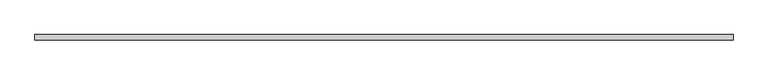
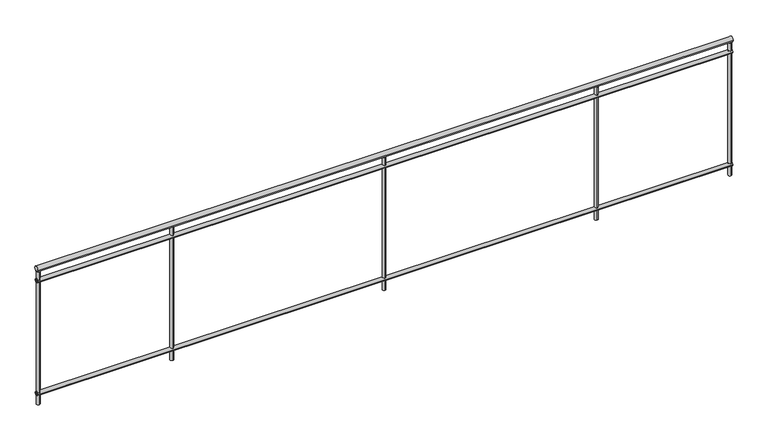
"""IFC4 building model written with IfcOpenShell, lengths in millimetres: railing geometry, バルコニー手摺."""

from ifc_helpers import new_model, si_unit, point, frame, frame_2d, origin, place, context, project, spatial, circle_curve, trimmed, segment, composite_curve, outline, extrude, source, transform, mapped, element, save


def railing_d567d05c(model_context):
    return source(origin(), model_context, "Body", "SweptSolid", [
        extrude(outline(composite_curve([segment(trimmed(circle_curve(frame_2d((10035.2598658, 7980.0)), 20.0), [point((10055.2598658, 7980.0))], [point((10015.2598658, 7980.0))], False, "CARTESIAN"), True, "CONTINUOUS"), segment(trimmed(circle_curve(frame_2d((10035.2598658, 7980.0)), 20.0), [point((10015.2598658, 7980.0))], [point((10055.2598658, 7980.0))], False, "CARTESIAN"), True, "CONTINUOUS")], self_intersect=False)), frame((9854.3805905, 0.0, 0.0), z_axis=(1.0, 0.0, 0.0), x_axis=(0.0, 1.0, 0.0)), (0.0, 0.0, 1.0), 5240.0),
        extrude(outline(composite_curve([segment(trimmed(circle_curve(frame_2d((10035.2598658, 7885.0)), 15.0), [point((10050.2598658, 7885.0))], [point((10020.2598658, 7885.0))], False, "CARTESIAN"), True, "CONTINUOUS"), segment(trimmed(circle_curve(frame_2d((10035.2598658, 7885.0)), 15.0), [point((10020.2598658, 7885.0))], [point((10050.2598658, 7885.0))], False, "CARTESIAN"), True, "CONTINUOUS")], self_intersect=False)), frame((9854.3805905, 0.0, 0.0), z_axis=(1.0, 0.0, 0.0), x_axis=(0.0, 1.0, 0.0)), (0.0, 0.0, 1.0), 5240.0),
        extrude(outline(composite_curve([segment(trimmed(circle_curve(frame_2d((10035.2598658, 6985.0)), 15.0), [point((10050.2598658, 6985.0))], [point((10020.2598658, 6985.0))], False, "CARTESIAN"), True, "CONTINUOUS"), segment(trimmed(circle_curve(frame_2d((10035.2598658, 6985.0)), 15.0), [point((10020.2598658, 6985.0))], [point((10050.2598658, 6985.0))], False, "CARTESIAN"), True, "CONTINUOUS")], self_intersect=False)), frame((9854.3805905, 0.0, 0.0), z_axis=(1.0, 0.0, 0.0), x_axis=(0.0, 1.0, 0.0)), (0.0, 0.0, 1.0), 5240.0),
        extrude(outline(composite_curve([segment(trimmed(circle_curve(frame_2d((10874.3805905, 10035.2598658)), 12.5), [point((10874.3805905, 10047.7598658))], [point((10874.3805905, 10022.7598658))], False, "CARTESIAN"), True, "CONTINUOUS"), segment(trimmed(circle_curve(frame_2d((10874.3805905, 10035.2598658)), 12.5), [point((10874.3805905, 10022.7598658))], [point((10874.3805905, 10047.7598658))], False, "CARTESIAN"), True, "CONTINUOUS")], self_intersect=False)), frame((0.0, 0.0, 6900.0), z_axis=(0.0, 0.0, 1.0), x_axis=(1.0, 0.0, 0.0)), (0.0, 0.0, 1.0), 1060.0),
        extrude(outline(composite_curve([segment(trimmed(circle_curve(frame_2d((12474.3805905, 10035.2598658)), 12.5), [point((12474.3805905, 10047.7598658))], [point((12474.3805905, 10022.7598658))], False, "CARTESIAN"), True, "CONTINUOUS"), segment(trimmed(circle_curve(frame_2d((12474.3805905, 10035.2598658)), 12.5), [point((12474.3805905, 10022.7598658))], [point((12474.3805905, 10047.7598658))], False, "CARTESIAN"), True, "CONTINUOUS")], self_intersect=False)), frame((0.0, 0.0, 6900.0), z_axis=(0.0, 0.0, 1.0), x_axis=(1.0, 0.0, 0.0)), (0.0, 0.0, 1.0), 1060.0),
        extrude(outline(composite_curve([segment(trimmed(circle_curve(frame_2d((14074.3805905, 10035.2598658)), 12.5), [point((14074.3805905, 10047.7598658))], [point((14074.3805905, 10022.7598658))], False, "CARTESIAN"), True, "CONTINUOUS"), segment(trimmed(circle_curve(frame_2d((14074.3805905, 10035.2598658)), 12.5), [point((14074.3805905, 10022.7598658))], [point((14074.3805905, 10047.7598658))], False, "CARTESIAN"), True, "CONTINUOUS")], self_intersect=False)), frame((0.0, 0.0, 6900.0), z_axis=(0.0, 0.0, 1.0), x_axis=(1.0, 0.0, 0.0)), (0.0, 0.0, 1.0), 1060.0),
        extrude(outline(composite_curve([segment(trimmed(circle_curve(frame_2d((9866.5805905, 10035.2598658)), 12.5), [point((9866.5805905, 10047.7598658))], [point((9866.5805905, 10022.7598658))], False, "CARTESIAN"), True, "CONTINUOUS"), segment(trimmed(circle_curve(frame_2d((9866.5805905, 10035.2598658)), 12.5), [point((9866.5805905, 10022.7598658))], [point((9866.5805905, 10047.7598658))], False, "CARTESIAN"), True, "CONTINUOUS")], self_intersect=False)), frame((0.0, 0.0, 6900.0), z_axis=(0.0, 0.0, 1.0), x_axis=(1.0, 0.0, 0.0)), (0.0, 0.0, 1.0), 1060.0),
        extrude(outline(composite_curve([segment(trimmed(circle_curve(frame_2d((15082.1805905, 10035.2598658)), 12.5), [point((15082.1805905, 10047.7598658))], [point((15082.1805905, 10022.7598658))], False, "CARTESIAN"), True, "CONTINUOUS"), segment(trimmed(circle_curve(frame_2d((15082.1805905, 10035.2598658)), 12.5), [point((15082.1805905, 10022.7598658))], [point((15082.1805905, 10047.7598658))], False, "CARTESIAN"), True, "CONTINUOUS")], self_intersect=False)), frame((0.0, 0.0, 6900.0), z_axis=(0.0, 0.0, 1.0), x_axis=(1.0, 0.0, 0.0)), (0.0, 0.0, 1.0), 1060.0),
    ])


if __name__ == "__main__":
    model = new_model("IFC4")
    model_context = context("Model", 3, world=origin())
    ifc_project = project(units=[si_unit("LENGTHUNIT", "METRE", prefix="MILLI")], contexts=[model_context])
    site = spatial("IfcSite", under=ifc_project)
    building = spatial("IfcBuilding", under=site)
    placement = place(None, origin())
    railing_shape = railing_d567d05c(model_context)
    element("IfcRailing", 1, ObjectType="バルコニー手摺", at=placement, inside=building, context=model_context, shape_type="MappedRepresentation", body=[
        mapped(railing_shape, transform((0.0, 0.0, 0.0), x_axis=(1.0, 0.0, 0.0), y_axis=(0.0, 1.0, 0.0), z_axis=(0.0, 0.0, 1.0))),
    ])
    save(model, "model.ifc")
